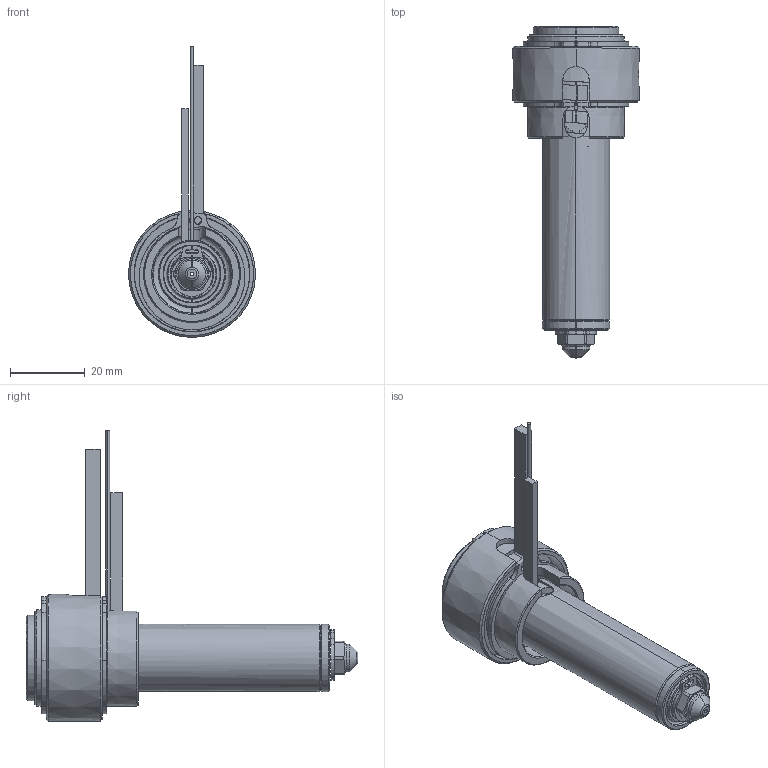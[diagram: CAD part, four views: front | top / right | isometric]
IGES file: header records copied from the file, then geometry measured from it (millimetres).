
Start section: SolidWorks IGES file using analytic representation for surfaces
Global section: file name: C:\Documents and Settings\ws-20\Desktop\TEM\UGER2502-M-A-1 [Øb-0.90 ØC-5.0].IGS; native system: SolidWorks 2012; preprocessor: SolidWorks 2012; author: ws-20; date: 120405.105046; units: millimetre
Bounding box: 34 x 88.9 x 77.9 mm (x, y, z)
Surface area: 23822.7 mm2 (no closed solid volume)
Topology: 0 solids, 0 shells, 195 faces, 2537 edges, 2537 vertices
Faces by surface type: revolution 124, bspline 71
